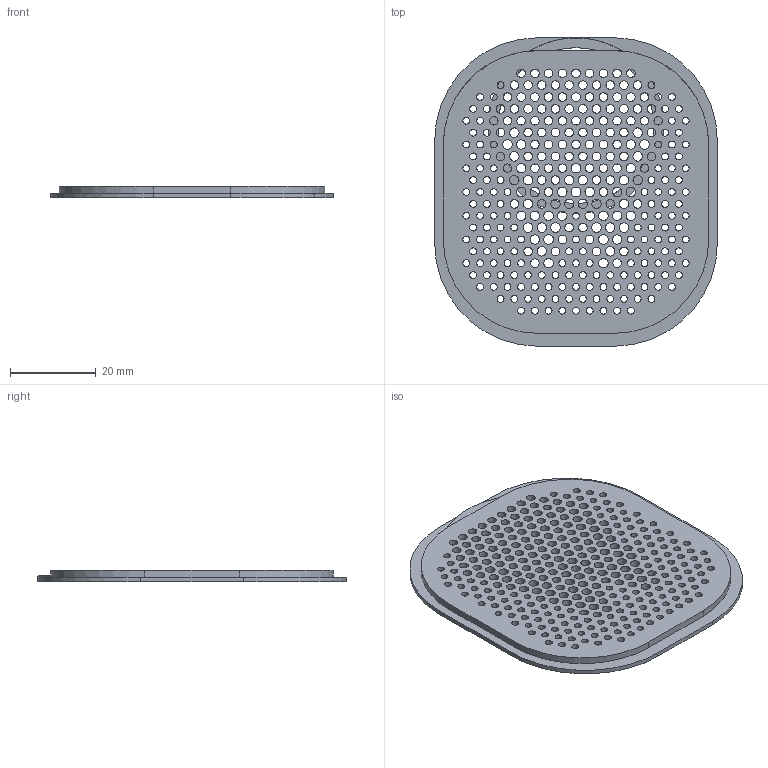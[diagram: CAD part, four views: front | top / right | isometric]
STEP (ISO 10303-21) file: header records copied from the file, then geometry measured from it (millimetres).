
FILE_DESCRIPTION(('Open CASCADE Model'),'2;1');
FILE_NAME('Open CASCADE Shape Model','2026-09-09T11:50:20',('Author'),( 'Open CASCADE'),'Open CASCADE STEP processor 7.7','Open CASCADE 7.7' ,'Unknown');
FILE_SCHEMA(('AUTOMOTIVE_DESIGN { 1 0 10303 214 1 1 1 1 }'));
Length unit declared in the file: millimetre
Products named in the file (1): Open CASCADE STEP translator 7.7 5
Bounding box: 66 x 72 x 2.6 mm (x, y, z)
Volume: 5567.4 mm3; surface area: 11013.4 mm2
Topology: 1 solids, 1 shells, 366 faces, 1094 edges, 729 vertices
Faces by surface type: cylinder 341, plane 25
Full cylindrical faces by diameter (mm): 1.6 x157, 2 x110, 2.2 x52, 36.4 x1
Entity records: 30186 total; most frequent: CARTESIAN_POINT 8312, DIRECTION 4030, ORIENTED_EDGE 2188, PCURVE 2188, DEFINITIONAL_REPRESENTATION 2188, LINE 1868, VECTOR 1868, EDGE_CURVE 1094
